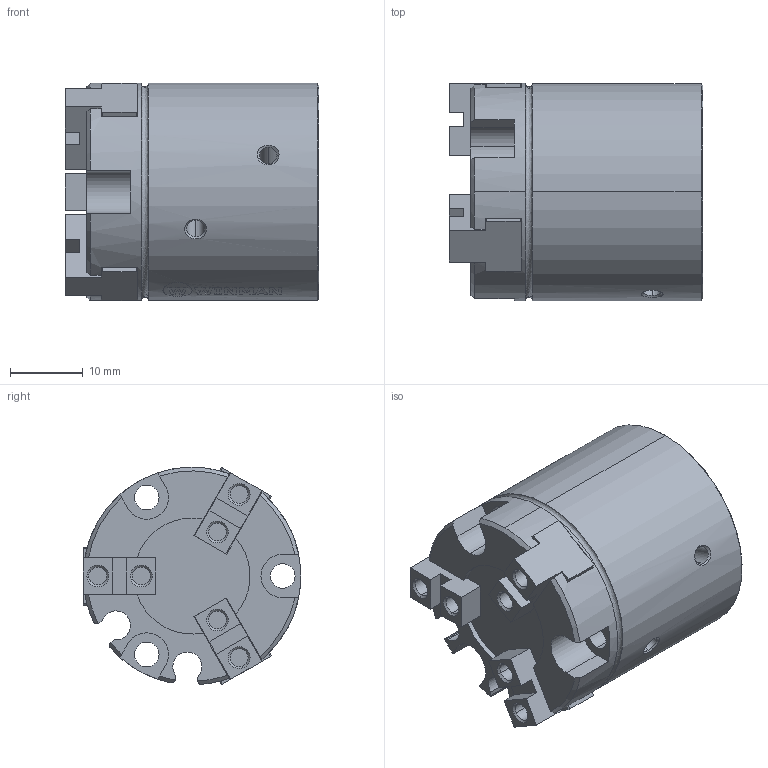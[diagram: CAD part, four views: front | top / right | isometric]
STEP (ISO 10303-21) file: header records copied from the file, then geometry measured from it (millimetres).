
FILE_DESCRIPTION (( 'STEP AP214' ), '1' );
FILE_NAME ('WFC3-016 (MDMY).STEP', '2017-01-17T10:11:23', ( 'Hidtek' ), ( '' ), 'SwSTEP 2.0', 'SolidWorks 2016', '' );
FILE_SCHEMA (( 'AUTOMOTIVE_DESIGN' ));
Length unit declared in the file: millimetre
Products named in the file (4): WFC3-Y16_body; WFC3-I16_finger; WFC3-Y16_finger; WFC3-016 (MDMY)
Assembly tree (4 placements, depth 2):
  WFC3-016 (MDMY)
    WFC3-Y16_body
    WFC3-Y16_finger  x2
    WFC3-I16_finger
Bounding box: 35 x 29.98 x 29.99 mm (x, y, z)
Volume: 19603.1 mm3; surface area: 8518.8 mm2
Topology: 4 solids, 4 shells, 308 faces, 803 edges, 527 vertices
Faces by surface type: plane 195, cylinder 76, cone 35, bspline 2
Entity records: 10138 total; most frequent: CARTESIAN_POINT 2106, ORIENTED_EDGE 1470, DIRECTION 1394, EDGE_CURVE 735, VERTEX_POINT 483, AXIS2_PLACEMENT_3D 477, VECTOR 440, LINE 440
